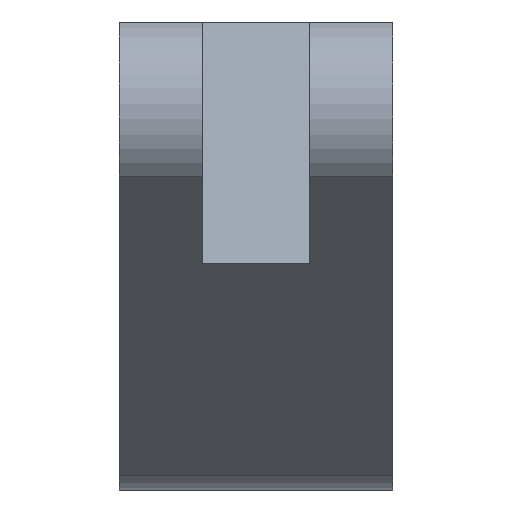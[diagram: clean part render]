
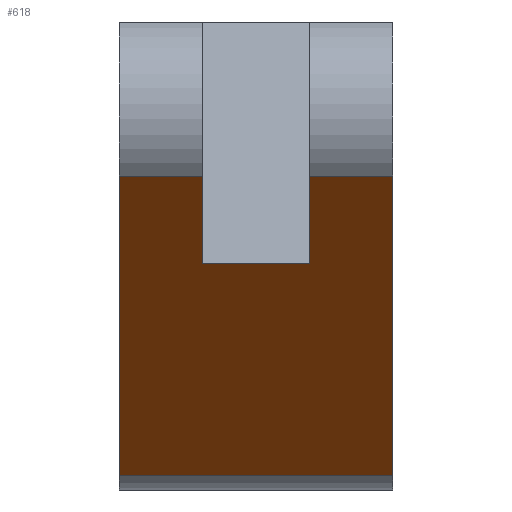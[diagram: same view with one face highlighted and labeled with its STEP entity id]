
A CAD part, left-side view. The second image highlights one B-rep face of the part: STEP entity #618.
In plain terms, the highlighted planar face has unit normal (-0.5, 0, -0.866).
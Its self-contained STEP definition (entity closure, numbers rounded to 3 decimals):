
#47=DIRECTION('',(-0.866,0.,0.5));
#48=VECTOR('',#47,52.485);
#49=CARTESIAN_POINT('',(47.466,-12.,-39.734));
#50=LINE('',#49,#48);
#160=DIRECTION('',(0.,1.,0.));
#161=VECTOR('',#160,7.3);
#162=CARTESIAN_POINT('',(2.013,-12.,-13.492));
#163=LINE('',#162,#161);
#175=DIRECTION('',(0.,1.,0.));
#176=VECTOR('',#175,7.3);
#177=CARTESIAN_POINT('',(2.013,4.7,-13.492));
#178=LINE('',#177,#176);
#182=DIRECTION('',(0.866,0.,-0.5));
#183=VECTOR('',#182,15.369);
#184=CARTESIAN_POINT('',(2.013,-4.7,-13.492));
#185=LINE('',#184,#183);
#189=DIRECTION('',(0.,1.,0.));
#190=VECTOR('',#189,24.);
#191=CARTESIAN_POINT('',(47.466,-12.,-39.734));
#192=LINE('',#191,#190);
#196=DIRECTION('',(0.866,0.,-0.5));
#197=VECTOR('',#196,15.369);
#198=CARTESIAN_POINT('',(2.013,4.7,-13.492));
#199=LINE('',#198,#197);
#203=DIRECTION('',(0.,1.,0.));
#204=VECTOR('',#203,9.4);
#205=CARTESIAN_POINT('',(15.322,-4.7,-21.176));
#206=LINE('',#205,#204);
#246=DIRECTION('',(-0.866,0.,0.5));
#247=VECTOR('',#246,52.485);
#248=CARTESIAN_POINT('',(47.466,12.,-39.734));
#249=LINE('',#248,#247);
#427=CARTESIAN_POINT('',(47.466,-12.,-39.734));
#428=VERTEX_POINT('',#427);
#429=CARTESIAN_POINT('',(2.013,-12.,-13.492));
#430=VERTEX_POINT('',#429);
#439=CARTESIAN_POINT('',(47.466,12.,-39.734));
#440=VERTEX_POINT('',#439);
#441=CARTESIAN_POINT('',(2.013,12.,-13.492));
#442=VERTEX_POINT('',#441);
#459=CARTESIAN_POINT('',(2.013,-4.7,-13.492));
#460=CARTESIAN_POINT('',(15.322,-4.7,-21.176));
#461=VERTEX_POINT('',#459);
#462=VERTEX_POINT('',#460);
#463=CARTESIAN_POINT('',(2.013,4.7,-13.492));
#464=CARTESIAN_POINT('',(15.322,4.7,-21.176));
#465=VERTEX_POINT('',#463);
#466=VERTEX_POINT('',#464);
#599=CARTESIAN_POINT('',(47.466,-12.,-39.734));
#600=DIRECTION('',(-0.5,0.,-0.866));
#601=DIRECTION('',(-0.866,0.,0.5));
#602=AXIS2_PLACEMENT_3D('',#599,#600,#601);
#603=PLANE('',#602);
#604=ORIENTED_EDGE('',*,*,#558,.F.);
#605=ORIENTED_EDGE('',*,*,#579,.F.);
#606=ORIENTED_EDGE('',*,*,#504,.F.);
#608=ORIENTED_EDGE('',*,*,#607,.T.);
#610=ORIENTED_EDGE('',*,*,#609,.T.);
#611=ORIENTED_EDGE('',*,*,#591,.F.);
#613=ORIENTED_EDGE('',*,*,#612,.T.);
#615=ORIENTED_EDGE('',*,*,#614,.F.);
#616=EDGE_LOOP('',(#604,#605,#606,#608,#610,#611,#613,#615));
#617=FACE_OUTER_BOUND('',#616,.F.);
#504=EDGE_CURVE('',#428,#430,#50,.T.);
#558=EDGE_CURVE('',#461,#462,#185,.T.);
#579=EDGE_CURVE('',#430,#461,#163,.T.);
#591=EDGE_CURVE('',#465,#442,#178,.T.);
#607=EDGE_CURVE('',#428,#440,#192,.T.);
#609=EDGE_CURVE('',#440,#442,#249,.T.);
#612=EDGE_CURVE('',#465,#466,#199,.T.);
#614=EDGE_CURVE('',#462,#466,#206,.T.);
#618=ADVANCED_FACE('',(#617),#603,.T.);
